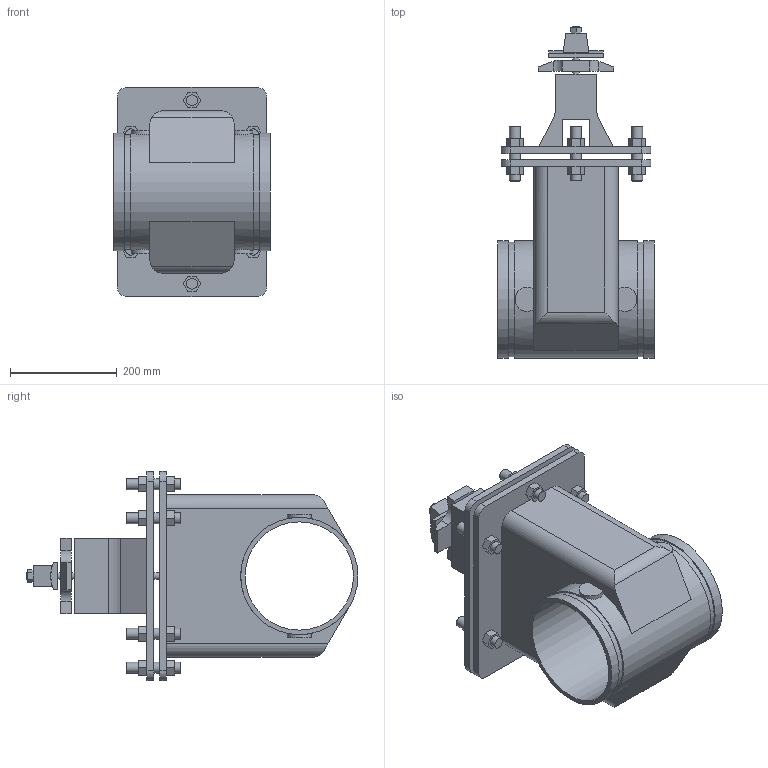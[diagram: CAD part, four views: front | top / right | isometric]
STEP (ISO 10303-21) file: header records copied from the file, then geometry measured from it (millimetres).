
FILE_DESCRIPTION(/* description */ ('VIC GATE VALVE SERIES 772H NRS','CAx-IF Rec.Pracs.---Representation and Presentation of Product Manufacturing Information (PMI)---4.0---2014-10-13'),/* implementation_level */ '2;1');
FILE_NAME(/* name */ 'C:\Users\Vjadhav\AppData\Roaming\Autodesk\ApplicationPlugins\Back Up\Victaulic_FP-FireLock_Valve Gate NRS_Series 772H (OGS)\Victaulic_FP-FireLock_Valve Gate NRS_Series 772H (OGS)_8 (200).stp',/* time_stamp */ '2020-07-20T15:49:38+05:00',/* author */ ('kkamble'),/* organization */ ('Victaulic'),/* preprocessor_version */ 'ST-DEVELOPER v17.2',/* originating_system */ 'Autodesk Inventor 2019',/* authorisation */ '');
FILE_SCHEMA (('AP242_MANAGED_MODEL_BASED_3D_ENGINEERING_MIM_LF { 1 0 10303 442 1 1 4 }'));
Length unit declared in the file: inch
Products named in the file (1): 772H-08.0
Bounding box: 292 x 620.65 x 390.91 mm (x, y, z)
Volume: 15963517 mm3; surface area: 1138372.6 mm2
Topology: 1 solids, 1 shells, 221 faces, 551 edges, 371 vertices
Faces by surface type: plane 168, cylinder 53
Full cylindrical faces by diameter (mm): 12.7 x4, 20.32 x18, 202.406 x1, 214.401 x2, 219.202 x3
Entity records: 7173 total; most frequent: CARTESIAN_POINT 1361, DIRECTION 1142, ORIENTED_EDGE 1102, EDGE_CURVE 551, LINE 422, VECTOR 422, VERTEX_POINT 371, AXIS2_PLACEMENT_3D 360
